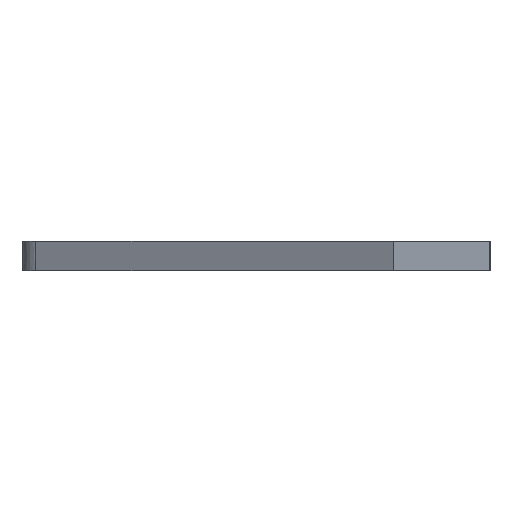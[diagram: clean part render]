
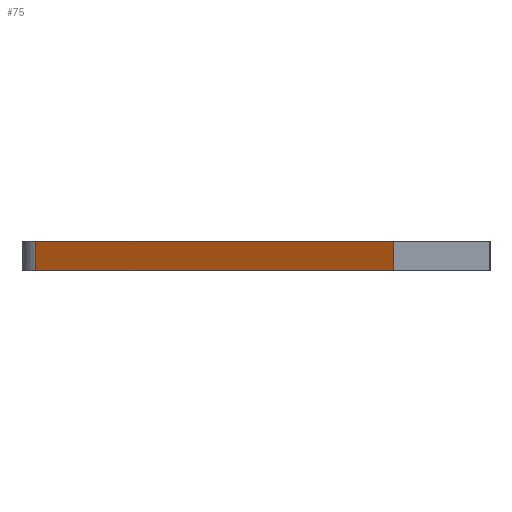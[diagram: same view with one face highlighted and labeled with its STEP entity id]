
A CAD part, left-side view. The second image highlights one B-rep face of the part: STEP entity #75.
In plain terms, the highlighted planar face has unit normal (-0.865, 0.503, 0).
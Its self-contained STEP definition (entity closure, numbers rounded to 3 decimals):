
#11 = VERTEX_POINT ( 'NONE', #1322 ) ;
#53 = ORIENTED_EDGE ( 'NONE', *, *, #84, .F. ) ;
#54 = ORIENTED_EDGE ( 'NONE', *, *, #55, .F. ) ;
#55 = EDGE_CURVE ( 'NONE', #148, #82, #1445, .T. ) ;
#56 = ORIENTED_EDGE ( 'NONE', *, *, #156, .T. ) ;
#57 = ORIENTED_EDGE ( 'NONE', *, *, #71, .T. ) ;
#71 = EDGE_CURVE ( 'NONE', #153, #11, #1421, .T. ) ;
#75 = ADVANCED_FACE ( 'NONE', ( #1477 ), #1476, .T. ) ;
#76 = EDGE_LOOP ( 'NONE', ( #53, #54, #56, #57 ) ) ;
#82 = VERTEX_POINT ( 'NONE', #1462 ) ;
#84 = EDGE_CURVE ( 'NONE', #82, #11, #1461, .T. ) ;
#148 = VERTEX_POINT ( 'NONE', #1560 ) ;
#153 = VERTEX_POINT ( 'NONE', #1555 ) ;
#156 = EDGE_CURVE ( 'NONE', #148, #153, #1553, .T. ) ;
#1322 = CARTESIAN_POINT ( 'NONE',  ( -33.292, 8.051, 0. ) ) ;
#1418 = DIRECTION ( 'NONE',  ( 0., 0., -1. ) ) ;
#1419 = VECTOR ( 'NONE', #1418, 1000. ) ;
#1420 = CARTESIAN_POINT ( 'NONE',  ( -33.292, 8.051, 1. ) ) ;
#1421 = LINE ( 'NONE', #1420, #1419 ) ;
#1442 = DIRECTION ( 'NONE',  ( 0., 0., -1. ) ) ;
#1443 = VECTOR ( 'NONE', #1442, 1000. ) ;
#1444 = CARTESIAN_POINT ( 'NONE',  ( -40.27, -3.949, 1. ) ) ;
#1445 = LINE ( 'NONE', #1444, #1443 ) ;
#1458 = DIRECTION ( 'NONE',  ( 0.503, 0.864, 0. ) ) ;
#1459 = VECTOR ( 'NONE', #1458, 1000. ) ;
#1460 = CARTESIAN_POINT ( 'NONE',  ( -40.27, -3.949, 0. ) ) ;
#1461 = LINE ( 'NONE', #1460, #1459 ) ;
#1462 = CARTESIAN_POINT ( 'NONE',  ( -40.27, -3.949, 0. ) ) ;
#1472 = DIRECTION ( 'NONE',  ( -0.503, -0.864, 0. ) ) ;
#1473 = DIRECTION ( 'NONE',  ( -0.864, 0.503, 0. ) ) ;
#1474 = CARTESIAN_POINT ( 'NONE',  ( -40.27, -3.949, 1. ) ) ;
#1475 = AXIS2_PLACEMENT_3D ( 'NONE', #1474, #1473, #1472 ) ;
#1476 = PLANE ( 'NONE',  #1475 ) ;
#1477 = FACE_OUTER_BOUND ( 'NONE', #76, .T. ) ;
#1550 = DIRECTION ( 'NONE',  ( 0.503, 0.864, 0. ) ) ;
#1551 = VECTOR ( 'NONE', #1550, 1000. ) ;
#1552 = CARTESIAN_POINT ( 'NONE',  ( -40.27, -3.949, 1. ) ) ;
#1553 = LINE ( 'NONE', #1552, #1551 ) ;
#1555 = CARTESIAN_POINT ( 'NONE',  ( -33.292, 8.051, 1. ) ) ;
#1560 = CARTESIAN_POINT ( 'NONE',  ( -40.27, -3.949, 1. ) ) ;
